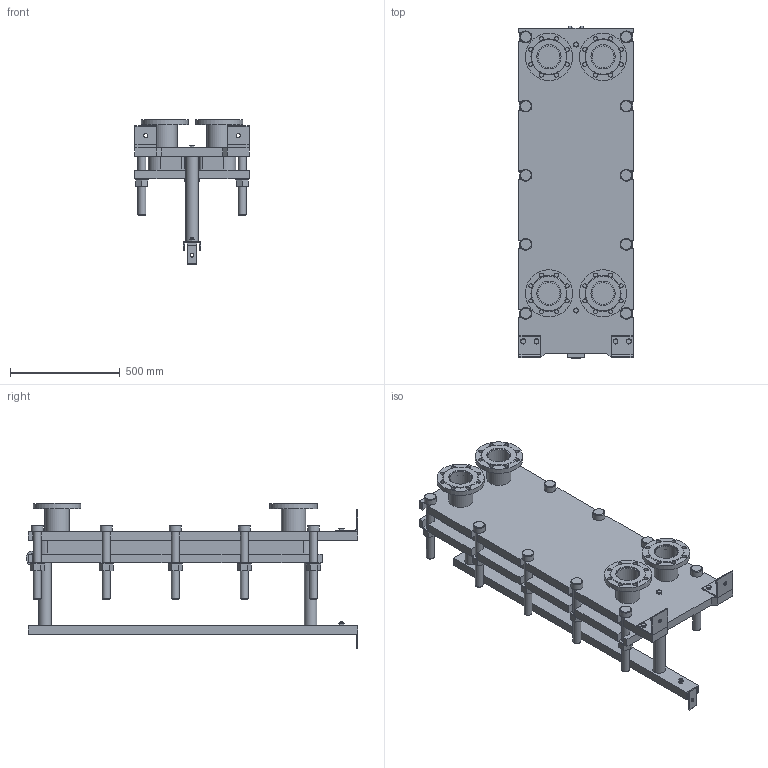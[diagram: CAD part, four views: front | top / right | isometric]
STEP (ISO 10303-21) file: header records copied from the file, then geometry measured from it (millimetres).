
FILE_DESCRIPTION(/* description */ (''),/* implementation_level */ '2;1');
FILE_NAME(/* name */ 'C:\Users\zhuro\Desktop\ENCO\TO\ЭН-04\ЭН-0,5-04-18-1.stp',/* time_stamp */ '2022-06-06T10:45:45+03:00',/* author */ ('zhuro'),/* organization */ (''),/* preprocessor_version */ 'ST-DEVELOPER v18.1',/* originating_system */ 'Autodesk Inventor 2022',/* authorisation */ '');
FILE_SCHEMA (('AUTOMOTIVE_DESIGN { 1 0 10303 214 3 1 1 }'));
Length unit declared in the file: millimetre
Products named in the file (1): ЭН-0,5-04-18-1
Bounding box: 520 x 1510 x 664 mm (x, y, z)
Volume: 97826510 mm3; surface area: 6552074.2 mm2
Topology: 45 solids, 45 shells, 668 faces, 1611 edges, 1048 vertices
Faces by surface type: plane 457, cylinder 166, cone 39, torus 6
Full cylindrical faces by diameter (mm): 8 x4, 10 x2, 16 x8, 18 x35, 36 x25, 40 x2, 42 x1, 45 x4, 54 x10, 57 x2, 60 x10, 68 x2, 100 x4, 110 x8, 215 x4
Entity records: 23607 total; most frequent: CARTESIAN_POINT 7348, DIRECTION 3371, ORIENTED_EDGE 3142, EDGE_CURVE 1571, AXIS2_PLACEMENT_3D 1199, VERTEX_POINT 1044, LINE 973, VECTOR 973
